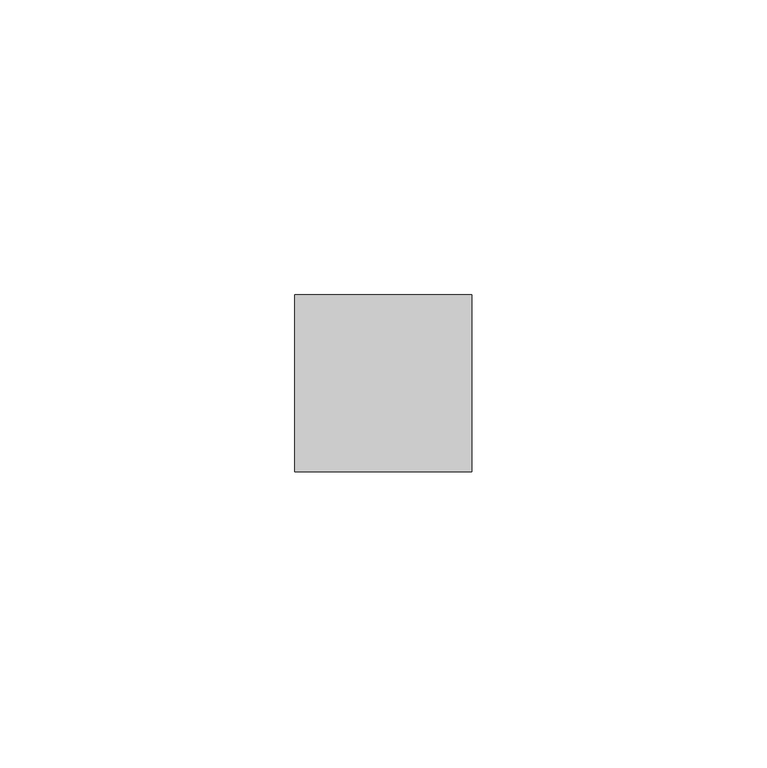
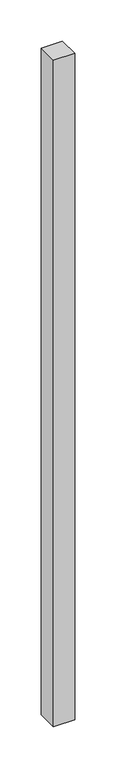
"""IFC4 building model written with IfcOpenShell, lengths in millimetres: member geometry, 矩形竖梃 : 30mm 正方形."""

import ifcopenshell
import ifcopenshell.guid

model = None  # the IFC model being written
_history = None  # IfcOwnerHistory: only IFC2X3 demands one
_inside = {}  # id of a spatial element -> (the spatial element, [elements in it])
_under = {}  # id of a project, library or spatial element -> (it, [spatial elements below it])
_declared = {}  # id of a project -> (the project, [libraries it declares])
_typed = {}  # id of a type object -> (the type object, [elements of that type])
_made_of = {}  # id of a material, layer set ... -> (it, [elements and type objects made of it])


def new_model(schema):
    """Start an empty IFC model of exactly this schema.

    Asked for "IFC4X3", IfcOpenShell would pick the latest addendum, in which some entities
    have other attributes; the version numbers below select the first issue.
    IFC2X3 requires an IfcOwnerHistory on every rooted entity: one is made here for all.
    """
    global model, _history
    if schema == "IFC4X3":
        model = ifcopenshell.file(schema_version=(4, 3, 0, 0))
    else:
        model = ifcopenshell.file(schema=schema)
    _inside.clear()
    _under.clear()
    _declared.clear()
    _typed.clear()
    _made_of.clear()
    _history = None
    if model.schema == "IFC2X3":
        org = make("IfcOrganization", Name="unknown")
        user = make(
            "IfcPersonAndOrganization",
            ThePerson=make("IfcPerson", FamilyName="unknown"),
            TheOrganization=org,
        )
        app = make(
            "IfcApplication",
            ApplicationDeveloper=org,
            Version="unknown",
            ApplicationFullName="unknown",
            ApplicationIdentifier="unknown",
        )
        _history = make(
            "IfcOwnerHistory",
            OwningUser=user,
            OwningApplication=app,
            ChangeAction="ADDED",
            CreationDate=0,
        )
    return model


def make(cls, **values):
    """One entity of the class cls with the attributes given. An attribute that is None is left unset."""
    return model.create_entity(
        cls, **{name: value for name, value in values.items() if value is not None}
    )


def rooted(cls, **values):
    """An entity with a GlobalId (a new one), such as an element, a storey or a relation."""
    return make(cls, GlobalId=ifcopenshell.guid.new(), OwnerHistory=_history, **values)


def si_unit(unit_type, name, prefix=None):
    """IfcSIUnit, for example si_unit("LENGTHUNIT", "METRE", prefix="MILLI")."""
    return make("IfcSIUnit", UnitType=unit_type, Prefix=prefix, Name=name)


def assignment(units):
    """IfcUnitAssignment: the units of a project."""
    return None if units is None else make("IfcUnitAssignment", Units=units)


def point(xyz):
    """IfcCartesianPoint."""
    return None if xyz is None else make("IfcCartesianPoint", Coordinates=xyz)


def direction(xyz):
    """IfcDirection."""
    return None if xyz is None else make("IfcDirection", DirectionRatios=xyz)


def frame(location, z_axis=None, x_axis=None):
    """IfcAxis2Placement3D, a coordinate frame: its origin and axes. An axis left out is left unset."""
    return make(
        "IfcAxis2Placement3D",
        Location=point(location),
        Axis=direction(z_axis),
        RefDirection=direction(x_axis),
    )


def origin():
    """The frame at (0, 0, 0) with its axes left unset."""
    return frame((0.0, 0.0, 0.0))


def place(relative_to, where):
    """IfcLocalPlacement: puts the frame where relative to a parent placement (None: the world)."""
    return make(
        "IfcLocalPlacement", PlacementRelTo=relative_to, RelativePlacement=where
    )


def context(
    kind, dimensions, precision=None, world=None, true_north=None, identifier=None
):
    """IfcGeometricRepresentationContext, for example the 3D "Model" context."""
    return make(
        "IfcGeometricRepresentationContext",
        ContextIdentifier=identifier,
        ContextType=kind,
        CoordinateSpaceDimension=dimensions,
        Precision=precision,
        WorldCoordinateSystem=world,
        TrueNorth=true_north,
    )


def project(units=None, contexts=None):
    """IfcProject with its units and contexts."""
    return rooted(
        "IfcProject",
        Name="project",
        RepresentationContexts=contexts,
        UnitsInContext=assignment(units),
    )


def spatial(cls, under=None, at=None, **own):
    """A site, building, storey or space (cls), placed at a placement, below another one or the project."""
    s = rooted(cls, ObjectPlacement=at, **own)
    if under is not None:
        _under.setdefault(under.id(), (under, []))[1].append(s)
    return s


def polyline(points):
    """IfcPolyline through the points."""
    return make("IfcPolyline", Points=[point(p) for p in points])


def outline(outer, holes=None, kind="AREA"):
    """IfcArbitraryClosedProfileDef: a profile drawn as a closed curve; with holes, ...WithVoids."""
    if holes is None:
        return make("IfcArbitraryClosedProfileDef", ProfileType=kind, OuterCurve=outer)
    return make(
        "IfcArbitraryProfileDefWithVoids",
        ProfileType=kind,
        OuterCurve=outer,
        InnerCurves=holes,
    )


def extrude(swept, where, along, depth):
    """IfcExtrudedAreaSolid: the profile swept, set in the frame where, extruded along a direction by depth."""
    return make(
        "IfcExtrudedAreaSolid",
        SweptArea=swept,
        Position=where,
        ExtrudedDirection=direction(along),
        Depth=depth,
    )


def shape(context_of_items, identifier, shape_type, items):
    """IfcShapeRepresentation: the items that make up one representation, for example the "Body"."""
    return make(
        "IfcShapeRepresentation",
        ContextOfItems=context_of_items,
        RepresentationIdentifier=identifier,
        RepresentationType=shape_type,
        Items=items,
    )


def source(mapping_origin, context_of_items, identifier, shape_type, items):
    """IfcRepresentationMap: a shape defined once, which mapped items show again and again."""
    return make(
        "IfcRepresentationMap",
        MappingOrigin=mapping_origin,
        MappedRepresentation=shape(context_of_items, identifier, shape_type, items),
    )


def transform(
    local_origin,
    x_axis=None,
    y_axis=None,
    z_axis=None,
    scale=None,
    scale2=None,
    scale3=None,
    uniform=True,
):
    """IfcCartesianTransformationOperator3D, or its non-uniform kind. x_axis, y_axis, z_axis: its Axis1, 2, 3."""
    if uniform:
        return make(
            "IfcCartesianTransformationOperator3D",
            Axis1=direction(x_axis),
            Axis2=direction(y_axis),
            LocalOrigin=point(local_origin),
            Scale=scale,
            Axis3=direction(z_axis),
        )
    return make(
        "IfcCartesianTransformationOperator3DnonUniform",
        Axis1=direction(x_axis),
        Axis2=direction(y_axis),
        LocalOrigin=point(local_origin),
        Scale=scale,
        Axis3=direction(z_axis),
        Scale2=scale2,
        Scale3=scale3,
    )


def mapped(mapping_source, mapping_target):
    """IfcMappedItem: shows the shape of a source again, moved by a transform."""
    return make(
        "IfcMappedItem", MappingSource=mapping_source, MappingTarget=mapping_target
    )


def made_of(thing, what):
    """Note that an element or type object is made of a material, layer set ...; save() writes the relation."""
    if what is not None:
        _made_of.setdefault(what.id(), (what, []))[1].append(thing)
    return thing


def element(
    cls,
    number,
    at=None,
    inside=None,
    cuts=None,
    type_object=None,
    material=None,
    context=None,
    identifier="Body",
    shape_type=None,
    held_by="IfcProductDefinitionShape",
    body=None,
    shapes=None,
    **own,
):
    """One element of the class cls, such as IfcWall. Its Tag is "e" and its number.

    at: its placement. inside: the storey or other place that contains it. cuts: it is an
    opening in that element (IfcRelVoidsElement). A single representation is given by context,
    identifier, shape_type and body (its items); several are given by shapes. held_by: the class
    of the entity that holds the representations. save() writes the other relations.
    """
    e = rooted(cls, Tag="e%d" % number, ObjectPlacement=at, **own)
    if body is not None:
        shapes = [shape(context, identifier, shape_type, body)]
    if shapes is not None:
        e.Representation = make(held_by, Representations=shapes)
    if inside is not None:
        _inside.setdefault(inside.id(), (inside, []))[1].append(e)
    if cuts is not None:
        rooted(
            "IfcRelVoidsElement", RelatingBuildingElement=cuts, RelatedOpeningElement=e
        )
    if type_object is not None:
        _typed.setdefault(type_object.id(), (type_object, []))[1].append(e)
    return made_of(e, material)


def aggregate(whole, parts):
    """IfcRelAggregates: a whole, such as a stair, and the parts it consists of."""
    return rooted("IfcRelAggregates", RelatingObject=whole, RelatedObjects=parts)


def save(model, path):
    """Write the relations noted so far, then the file.

    IfcRelAggregates (storeys below a building ...), IfcRelContainedInSpatialStructure (elements
    in a storey), IfcRelDefinesByType, IfcRelAssociatesMaterial and IfcRelDeclares: one each for
    every whole, place, type object, material and project.
    """
    for whole, parts in _under.values():
        aggregate(whole, parts)
    for where, things in _inside.values():
        rooted(
            "IfcRelContainedInSpatialStructure",
            RelatedElements=things,
            RelatingStructure=where,
        )
    for kind, things in _typed.values():
        rooted("IfcRelDefinesByType", RelatedObjects=things, RelatingType=kind)
    for what, things in _made_of.values():
        rooted("IfcRelAssociatesMaterial", RelatedObjects=things, RelatingMaterial=what)
    for by, libraries in _declared.values():
        rooted("IfcRelDeclares", RelatingContext=by, RelatedDefinitions=libraries)
    model.write(path)


def member_9c23d585(model_context):
    return source(origin(), model_context, "Body", "SweptSolid", [
        extrude(outline(polyline([(0.0, 15.0), (0.0, -15.0), (-30.0, -15.0), (-30.0, 15.0), (0.0, 15.0)])), frame((0.0, 0.0, -990.0), z_axis=(0.0, 0.0, 1.0), x_axis=(1.0, 0.0, 0.0)), (0.0, 0.0, 1.0), 990.0),
    ])


if __name__ == "__main__":
    model = new_model("IFC4")
    model_context = context("Model", 3, world=origin())
    ifc_project = project(units=[si_unit("LENGTHUNIT", "METRE", prefix="MILLI")], contexts=[model_context])
    site = spatial("IfcSite", under=ifc_project)
    building = spatial("IfcBuilding", under=site)
    placement = place(None, origin())
    member_shape = member_9c23d585(model_context)
    element("IfcMember", 1, ObjectType="矩形竖梃 : 30mm 正方形", at=placement, inside=building, context=model_context, shape_type="MappedRepresentation", body=[
        mapped(member_shape, transform((0.0, 0.0, 0.0), x_axis=(1.0, 0.0, 0.0), y_axis=(0.0, 1.0, 0.0), z_axis=(0.0, 0.0, 1.0))),
    ])
    save(model, "model.ifc")
